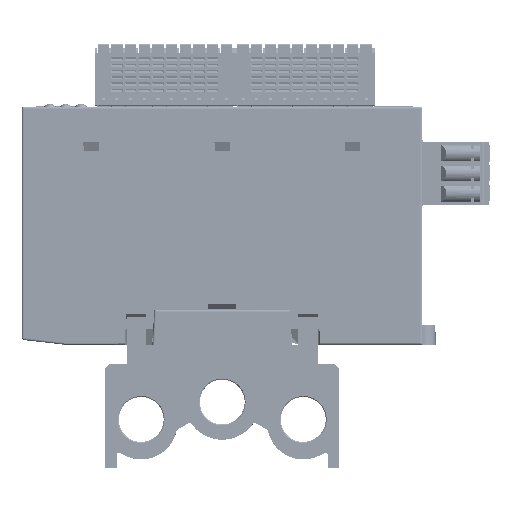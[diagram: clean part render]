
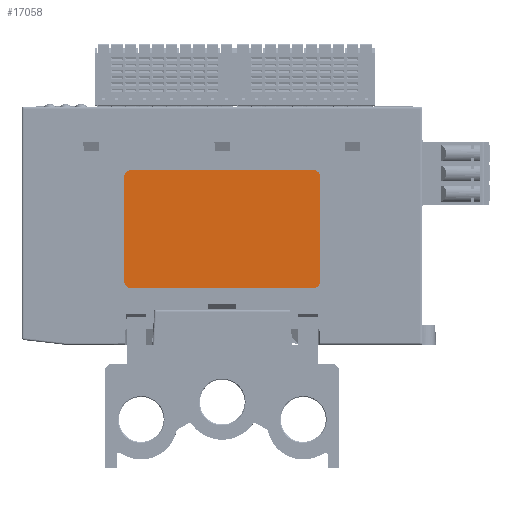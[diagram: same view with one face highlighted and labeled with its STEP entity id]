
A CAD part, front view. The second image highlights one B-rep face of the part: STEP entity #17058.
In plain terms, the highlighted planar face has unit normal (0, -1, 0).
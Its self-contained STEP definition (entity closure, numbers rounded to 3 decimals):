
#7540=FACE_OUTER_BOUND('',#72305,.T.);
#17058=ADVANCED_FACE('',(#7540),#26777,.F.);
#26777=PLANE('',#183248);
#34564=LINE('',#254525,#52787);
#34568=LINE('',#254533,#52791);
#34570=LINE('',#254537,#52793);
#34573=LINE('',#254545,#52796);
#52787=VECTOR('',#201206,1.);
#52791=VECTOR('',#201212,1.);
#52793=VECTOR('',#201216,1.);
#52796=VECTOR('',#201223,1.);
#72305=EDGE_LOOP('',(#86170,#86171,#86172,#86173,#86174,#86175,#86176,#86177));
#86170=ORIENTED_EDGE('',*,*,#153894,.F.);
#86171=ORIENTED_EDGE('',*,*,#153899,.T.);
#86172=ORIENTED_EDGE('',*,*,#153900,.F.);
#86173=ORIENTED_EDGE('',*,*,#153901,.T.);
#86174=ORIENTED_EDGE('',*,*,#153896,.F.);
#86175=ORIENTED_EDGE('',*,*,#153902,.T.);
#86176=ORIENTED_EDGE('',*,*,#153890,.F.);
#86177=ORIENTED_EDGE('',*,*,#153903,.T.);
#136400=VERTEX_POINT('',#254526);
#136401=VERTEX_POINT('',#254527);
#136402=VERTEX_POINT('',#254532);
#136403=VERTEX_POINT('',#254534);
#136404=VERTEX_POINT('',#254538);
#136405=VERTEX_POINT('',#254539);
#136406=VERTEX_POINT('',#254544);
#136407=VERTEX_POINT('',#254546);
#153890=EDGE_CURVE('',#136400,#136401,#34564,.T.);
#153894=EDGE_CURVE('',#136402,#136403,#34568,.T.);
#153896=EDGE_CURVE('',#136404,#136405,#34570,.T.);
#153899=EDGE_CURVE('',#136402,#136406,#177788,.T.);
#153900=EDGE_CURVE('',#136407,#136406,#34573,.T.);
#153901=EDGE_CURVE('',#136407,#136405,#177789,.T.);
#153902=EDGE_CURVE('',#136404,#136401,#177790,.T.);
#153903=EDGE_CURVE('',#136400,#136403,#177791,.T.);
#177788=CIRCLE('',#183244,1.8);
#177789=CIRCLE('',#183245,1.8);
#177790=CIRCLE('',#183246,1.8);
#177791=CIRCLE('',#183247,1.8);
#183244=AXIS2_PLACEMENT_3D('',#254543,#201221,#201222);
#183245=AXIS2_PLACEMENT_3D('',#254547,#201224,#201225);
#183246=AXIS2_PLACEMENT_3D('',#254548,#201226,#201227);
#183247=AXIS2_PLACEMENT_3D('',#254549,#201228,#201229);
#183248=AXIS2_PLACEMENT_3D('',#254550,#201230,#201231);
#201206=DIRECTION('',(0.,0.,-1.));
#201212=DIRECTION('',(1.,0.,0.));
#201216=DIRECTION('',(-1.,0.,0.));
#201221=DIRECTION('',(0.,-1.,0.));
#201222=DIRECTION('',(0.,0.,1.));
#201223=DIRECTION('',(0.,0.,1.));
#201224=DIRECTION('',(0.,-1.,0.));
#201225=DIRECTION('',(0.,0.,-1.));
#201226=DIRECTION('',(0.,-1.,0.));
#201227=DIRECTION('',(0.,0.,-1.));
#201228=DIRECTION('',(0.,-1.,0.));
#201229=DIRECTION('',(0.,0.,-1.));
#201230=DIRECTION('',(0.,1.,0.));
#201231=DIRECTION('',(0.,0.,-1.));
#254525=CARTESIAN_POINT('',(525.15,-2.14,34.634));
#254526=CARTESIAN_POINT('',(525.15,-2.14,47.934));
#254527=CARTESIAN_POINT('',(525.15,-2.14,21.334));
#254532=CARTESIAN_POINT('',(476.75,-2.14,49.734));
#254533=CARTESIAN_POINT('',(500.05,-2.14,49.734));
#254534=CARTESIAN_POINT('',(523.35,-2.14,49.734));
#254537=CARTESIAN_POINT('',(475.05,-2.14,19.534));
#254538=CARTESIAN_POINT('',(523.35,-2.14,19.534));
#254539=CARTESIAN_POINT('',(476.75,-2.14,19.534));
#254543=CARTESIAN_POINT('',(476.75,-2.14,47.934));
#254544=CARTESIAN_POINT('',(474.95,-2.14,47.934));
#254545=CARTESIAN_POINT('',(474.95,-2.14,34.634));
#254546=CARTESIAN_POINT('',(474.95,-2.14,21.334));
#254547=CARTESIAN_POINT('',(476.75,-2.14,21.334));
#254548=CARTESIAN_POINT('',(523.35,-2.14,21.334));
#254549=CARTESIAN_POINT('',(523.35,-2.14,47.934));
#254550=CARTESIAN_POINT('',(500.041,-2.14,23.341));
